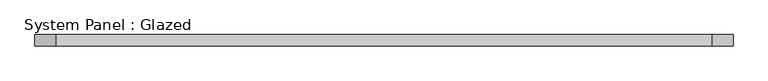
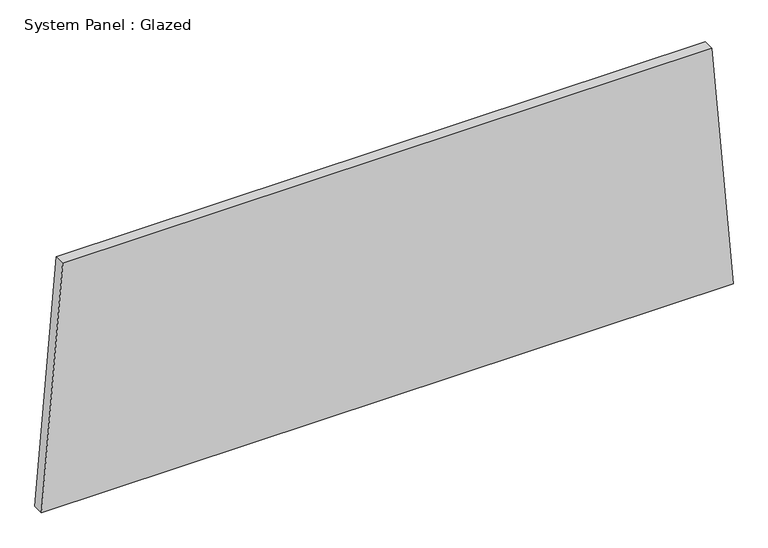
"""IFC4 building model written with IfcOpenShell, lengths in millimetres: plate geometry, System Panel : Glazed."""

from ifc_helpers import new_model, si_unit, frame, origin, place, context, project, spatial, polyline, outline, extrude, source, transform, mapped, element, save


def system_panel_glazed_b2390fc1(model_context):
    return source(origin(), model_context, "Body", "SweptSolid", [
        extrude(outline(polyline([(0.0, -786.1639694), (0.0, 786.1639694), (582.1199553, 737.9519894), (582.1199553, -737.9519894), (0.0, -786.1639694)])), frame((0.0, -44.45, 0.0), z_axis=(0.0, 1.0, 0.0), x_axis=(0.0, 0.0, 1.0)), (0.0, 0.0, 1.0), 25.4),
    ])


if __name__ == "__main__":
    model = new_model("IFC4")
    model_context = context("Model", 3, world=origin())
    ifc_project = project(units=[si_unit("LENGTHUNIT", "METRE", prefix="MILLI")], contexts=[model_context])
    site = spatial("IfcSite", under=ifc_project)
    building = spatial("IfcBuilding", under=site)
    placement = place(None, origin())
    system_panel_glazed_shape = system_panel_glazed_b2390fc1(model_context)
    element("IfcPlate", 1, ObjectType="System Panel : Glazed", at=placement, inside=building, context=model_context, shape_type="MappedRepresentation", body=[
        mapped(system_panel_glazed_shape, transform((0.0, 0.0, 0.0), x_axis=(1.0, 0.0, 0.0), y_axis=(0.0, 1.0, 0.0), z_axis=(0.0, 0.0, 1.0))),
    ])
    save(model, "model.ifc")
